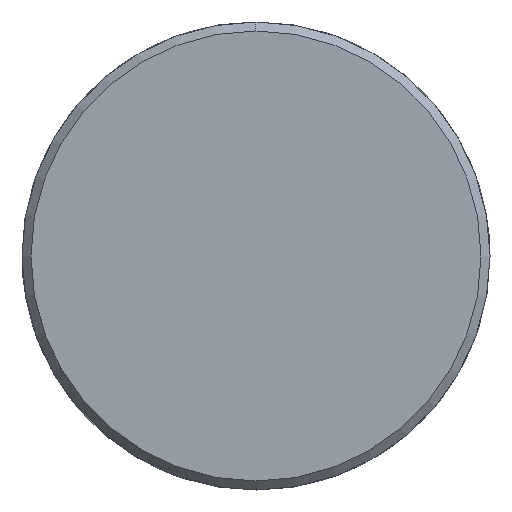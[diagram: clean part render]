
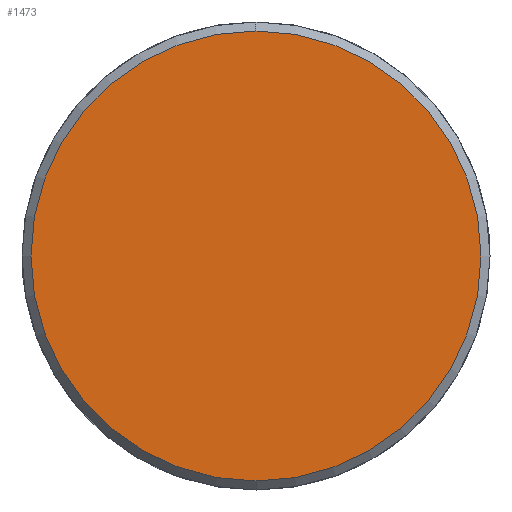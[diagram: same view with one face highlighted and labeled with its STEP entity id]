
A CAD part, left-side view. The second image highlights one B-rep face of the part: STEP entity #1473.
In plain terms, the highlighted planar face has unit normal (-1, 0, 0).
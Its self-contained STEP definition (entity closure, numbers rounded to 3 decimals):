
#1405=CARTESIAN_POINT('Vertex',(-8.,0.,-25.)) ;
#1408=CARTESIAN_POINT('Axis2P3D Location',(-8.,0.,0.)) ;
#1412=CARTESIAN_POINT('Vertex',(-8.,25.,0.)) ;
#1415=CARTESIAN_POINT('Axis2P3D Location',(-8.,0.,0.)) ;
#1419=CARTESIAN_POINT('Vertex',(-8.,0.,25.)) ;
#1441=CARTESIAN_POINT('Axis2P3D Location',(-8.,0.,0.)) ;
#1445=CARTESIAN_POINT('Vertex',(-8.,-25.,0.)) ;
#1448=CARTESIAN_POINT('Axis2P3D Location',(-8.,0.,0.)) ;
#1462=CARTESIAN_POINT('Axis2P3D Location',(-8.,0.,0.)) ;
#1409=DIRECTION('Axis2P3D Direction',(1.,0.,-0.)) ;
#1416=DIRECTION('Axis2P3D Direction',(1.,0.,-0.)) ;
#1442=DIRECTION('Axis2P3D Direction',(1.,0.,-0.)) ;
#1449=DIRECTION('Axis2P3D Direction',(1.,0.,-0.)) ;
#1463=DIRECTION('Axis2P3D Direction',(1.,0.,-0.)) ;
#1464=DIRECTION('Axis2P3D XDirection',(-0.,0.,-1.)) ;
#1410=AXIS2_PLACEMENT_3D('Circle Axis2P3D',#1408,#1409,$) ;
#1417=AXIS2_PLACEMENT_3D('Circle Axis2P3D',#1415,#1416,$) ;
#1443=AXIS2_PLACEMENT_3D('Circle Axis2P3D',#1441,#1442,$) ;
#1450=AXIS2_PLACEMENT_3D('Circle Axis2P3D',#1448,#1449,$) ;
#1465=AXIS2_PLACEMENT_3D('Plane Axis2P3D',#1462,#1463,#1464) ;
#1468=ORIENTED_EDGE('',*,*,#1414,.F.) ;
#1469=ORIENTED_EDGE('',*,*,#1452,.F.) ;
#1470=ORIENTED_EDGE('',*,*,#1447,.F.) ;
#1471=ORIENTED_EDGE('',*,*,#1421,.F.) ;
#1473=ADVANCED_FACE('351-40X96X300',(#1472),#1466,.F.) ;
#1411=CIRCLE('generated circle',#1410,25.) ;
#1418=CIRCLE('generated circle',#1417,25.) ;
#1444=CIRCLE('generated circle',#1443,25.) ;
#1451=CIRCLE('generated circle',#1450,25.) ;
#1414=EDGE_CURVE('',#1406,#1413,#1411,.T.) ;
#1421=EDGE_CURVE('',#1413,#1420,#1418,.T.) ;
#1447=EDGE_CURVE('',#1420,#1446,#1444,.T.) ;
#1452=EDGE_CURVE('',#1446,#1406,#1451,.T.) ;
#1467=EDGE_LOOP('',(#1468,#1469,#1470,#1471)) ;
#1472=FACE_OUTER_BOUND('',#1467,.T.) ;
#1466=PLANE('Plane',#1465) ;
#1406=VERTEX_POINT('',#1405) ;
#1413=VERTEX_POINT('',#1412) ;
#1420=VERTEX_POINT('',#1419) ;
#1446=VERTEX_POINT('',#1445) ;
